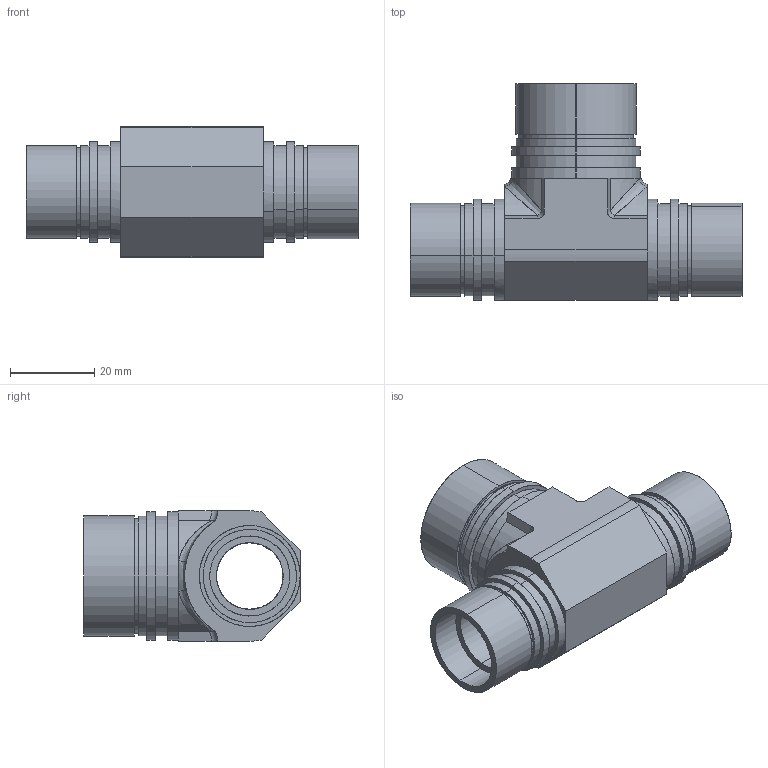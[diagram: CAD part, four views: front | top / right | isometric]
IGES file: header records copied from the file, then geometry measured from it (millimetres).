
Start section: SolidWorks IGES file using analytic representation for surfaces
Global section: file name: Part3^70-19.05RUBT25.4-P.IGS; native system: SolidWorks 2012; preprocessor: SolidWorks 2012; author: harada; date: 130905.131143; units: millimetre
Bounding box: 79 x 51.5 x 31 mm (x, y, z)
Surface area: 16499.5 mm2 (no closed solid volume)
Topology: 0 solids, 0 shells, 116 faces, 2668 edges, 2666 vertices
Faces by surface type: revolution 70, bspline 46
